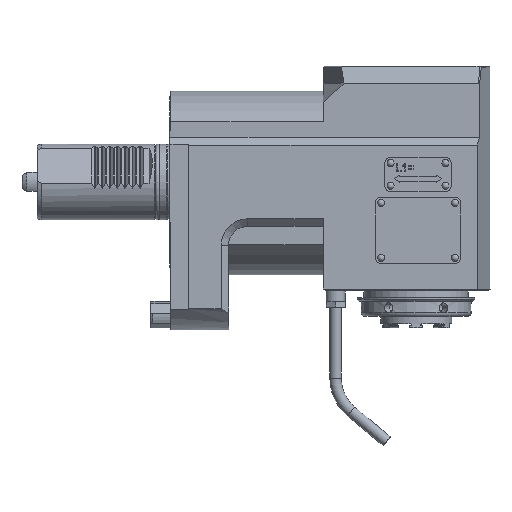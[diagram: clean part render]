
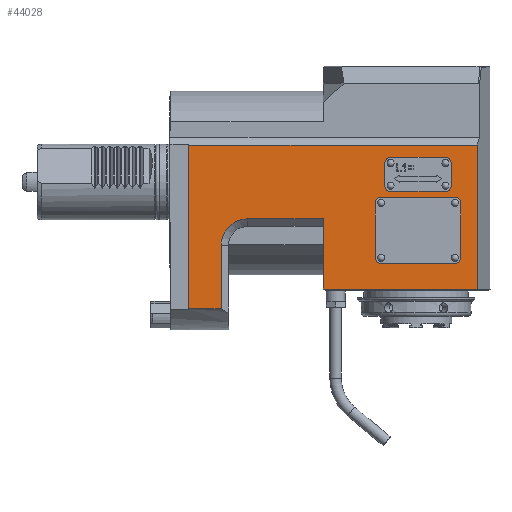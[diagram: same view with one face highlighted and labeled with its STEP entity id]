
A CAD part, front view. The second image highlights one B-rep face of the part: STEP entity #44028.
In plain terms, the highlighted planar face has unit normal (0, -1, 0).
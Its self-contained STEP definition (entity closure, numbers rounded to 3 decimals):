
#17822=VECTOR('',#28168,1.);
#17870=VECTOR('',#28242,1.);
#17993=VECTOR('',#28629,1.);
#18007=VECTOR('',#28733,1.);
#18012=VECTOR('',#28742,1.);
#18013=VECTOR('',#28743,1.);
#18014=VECTOR('',#28744,1.);
#18015=VECTOR('',#28747,1.);
#18016=VECTOR('',#28748,1.);
#18017=VECTOR('',#28751,1.);
#18018=VECTOR('',#28754,1.);
#18019=VECTOR('',#28757,1.);
#18020=VECTOR('',#28760,1.);
#18021=VECTOR('',#28763,1.);
#18022=VECTOR('',#28766,1.);
#18023=VECTOR('',#28769,1.);
#18667=LINE('',#35186,#17822);
#18715=LINE('',#35287,#17870);
#18838=LINE('',#35649,#17993);
#18852=LINE('',#35872,#18007);
#18857=LINE('',#35884,#18012);
#18858=LINE('',#35886,#18013);
#18859=LINE('',#35888,#18014);
#18860=LINE('',#35891,#18015);
#18861=LINE('',#35894,#18016);
#18862=LINE('',#35898,#18017);
#18863=LINE('',#35902,#18018);
#18864=LINE('',#35906,#18019);
#18865=LINE('',#35910,#18020);
#18866=LINE('',#35914,#18021);
#18867=LINE('',#35918,#18022);
#18868=LINE('',#35922,#18023);
#19792=PLANE('',#42899);
#20868=ORIENTED_EDGE('',*,*,#25103,.T.);
#20869=ORIENTED_EDGE('',*,*,#24841,.T.);
#20870=ORIENTED_EDGE('',*,*,#24892,.F.);
#20871=ORIENTED_EDGE('',*,*,#25059,.F.);
#20872=ORIENTED_EDGE('',*,*,#25109,.F.);
#20873=ORIENTED_EDGE('',*,*,#25110,.F.);
#20874=ORIENTED_EDGE('',*,*,#25111,.F.);
#20875=ORIENTED_EDGE('',*,*,#25112,.F.);
#20876=ORIENTED_EDGE('',*,*,#25113,.F.);
#20877=ORIENTED_EDGE('',*,*,#25114,.F.);
#20878=ORIENTED_EDGE('',*,*,#25115,.T.);
#20879=ORIENTED_EDGE('',*,*,#25116,.F.);
#20880=ORIENTED_EDGE('',*,*,#25117,.T.);
#20881=ORIENTED_EDGE('',*,*,#25118,.F.);
#20882=ORIENTED_EDGE('',*,*,#25119,.T.);
#20883=ORIENTED_EDGE('',*,*,#25120,.F.);
#20884=ORIENTED_EDGE('',*,*,#25121,.T.);
#20885=ORIENTED_EDGE('',*,*,#25122,.F.);
#20886=ORIENTED_EDGE('',*,*,#25123,.T.);
#20887=ORIENTED_EDGE('',*,*,#25124,.F.);
#20888=ORIENTED_EDGE('',*,*,#25125,.T.);
#20889=ORIENTED_EDGE('',*,*,#25126,.F.);
#20890=ORIENTED_EDGE('',*,*,#25127,.T.);
#20891=ORIENTED_EDGE('',*,*,#25128,.F.);
#20892=ORIENTED_EDGE('',*,*,#25129,.T.);
#23391=CIRCLE('',#42900,14.);
#23392=CIRCLE('',#42901,3.);
#23393=CIRCLE('',#42902,3.);
#23394=CIRCLE('',#42903,3.);
#23395=CIRCLE('',#42904,3.);
#23396=CIRCLE('',#42905,3.);
#23397=CIRCLE('',#42906,3.);
#23398=CIRCLE('',#42907,3.);
#23399=CIRCLE('',#42908,3.);
#23786=VERTEX_POINT('',#35178);
#23788=VERTEX_POINT('',#35184);
#23828=VERTEX_POINT('',#35285);
#23935=VERTEX_POINT('',#35647);
#23967=VERTEX_POINT('',#35871);
#23972=VERTEX_POINT('',#35883);
#23973=VERTEX_POINT('',#35885);
#23974=VERTEX_POINT('',#35887);
#23975=VERTEX_POINT('',#35889);
#23976=VERTEX_POINT('',#35892);
#23977=VERTEX_POINT('',#35893);
#23978=VERTEX_POINT('',#35895);
#23979=VERTEX_POINT('',#35897);
#23980=VERTEX_POINT('',#35899);
#23981=VERTEX_POINT('',#35901);
#23982=VERTEX_POINT('',#35903);
#23983=VERTEX_POINT('',#35905);
#23984=VERTEX_POINT('',#35908);
#23985=VERTEX_POINT('',#35909);
#23986=VERTEX_POINT('',#35911);
#23987=VERTEX_POINT('',#35913);
#23988=VERTEX_POINT('',#35915);
#23989=VERTEX_POINT('',#35917);
#23990=VERTEX_POINT('',#35919);
#23991=VERTEX_POINT('',#35921);
#24841=EDGE_CURVE('',#23786,#23788,#18667,.T.);
#24892=EDGE_CURVE('',#23828,#23788,#18715,.T.);
#25059=EDGE_CURVE('',#23935,#23828,#18838,.T.);
#25103=EDGE_CURVE('',#23967,#23786,#18852,.T.);
#25109=EDGE_CURVE('',#23972,#23935,#18857,.T.);
#25110=EDGE_CURVE('',#23973,#23972,#18858,.T.);
#25111=EDGE_CURVE('',#23974,#23973,#18859,.T.);
#25112=EDGE_CURVE('',#23975,#23974,#23391,.T.);
#25113=EDGE_CURVE('',#23967,#23975,#18860,.T.);
#25114=EDGE_CURVE('',#23976,#23977,#18861,.T.);
#25115=EDGE_CURVE('',#23976,#23978,#23392,.T.);
#25116=EDGE_CURVE('',#23979,#23978,#18862,.T.);
#25117=EDGE_CURVE('',#23979,#23980,#23393,.T.);
#25118=EDGE_CURVE('',#23981,#23980,#18863,.T.);
#25119=EDGE_CURVE('',#23981,#23982,#23394,.T.);
#25120=EDGE_CURVE('',#23983,#23982,#18864,.T.);
#25121=EDGE_CURVE('',#23983,#23977,#23395,.T.);
#25122=EDGE_CURVE('',#23984,#23985,#18865,.T.);
#25123=EDGE_CURVE('',#23984,#23986,#23396,.T.);
#25124=EDGE_CURVE('',#23987,#23986,#18866,.T.);
#25125=EDGE_CURVE('',#23987,#23988,#23397,.T.);
#25126=EDGE_CURVE('',#23989,#23988,#18867,.T.);
#25127=EDGE_CURVE('',#23989,#23990,#23398,.T.);
#25128=EDGE_CURVE('',#23991,#23990,#18868,.T.);
#25129=EDGE_CURVE('',#23991,#23985,#23399,.T.);
#26503=EDGE_LOOP('',(#20868,#20869,#20870,#20871,#20872,#20873,#20874,#20875,
#20876));
#26504=EDGE_LOOP('',(#20877,#20878,#20879,#20880,#20881,#20882,#20883,#20884));
#26505=EDGE_LOOP('',(#20885,#20886,#20887,#20888,#20889,#20890,#20891,#20892));
#27381=FACE_BOUND('',#26503,.T.);
#27382=FACE_BOUND('',#26504,.T.);
#27383=FACE_BOUND('',#26505,.T.);
#28168=DIRECTION('',(81.301,0.,0.));
#28242=DIRECTION('',(0.,0.,-76.));
#28629=DIRECTION('',(152.251,0.,0.));
#28733=DIRECTION('',(0.,0.,-37.));
#28740=DIRECTION('',(0.,-1.,0.));
#28741=DIRECTION('',(-1.,0.,0.));
#28742=DIRECTION('',(0.,0.,86.463));
#28743=DIRECTION('',(-17.,0.,0.));
#28744=DIRECTION('',(0.,0.,-33.463));
#28745=DIRECTION('',(0.,-1.,0.));
#28746=DIRECTION('',(0.,0.,14.));
#28747=DIRECTION('',(-39.95,0.,0.));
#28748=DIRECTION('',(0.,0.,29.));
#28749=DIRECTION('',(0.,1.,0.));
#28750=DIRECTION('',(0.,0.,-3.));
#28751=DIRECTION('',(39.,0.,0.));
#28752=DIRECTION('',(0.,1.,0.));
#28753=DIRECTION('',(0.,0.,-3.));
#28754=DIRECTION('',(0.,0.,-29.));
#28755=DIRECTION('',(0.,1.,0.));
#28756=DIRECTION('',(0.,0.,-3.));
#28757=DIRECTION('',(-39.,0.,0.));
#28758=DIRECTION('',(0.,1.,0.));
#28759=DIRECTION('',(0.,0.,-3.));
#28760=DIRECTION('',(-29.,0.,0.));
#28761=DIRECTION('',(0.,1.,0.));
#28762=DIRECTION('',(0.,0.,-3.));
#28763=DIRECTION('',(0.,0.,12.));
#28764=DIRECTION('',(0.,1.,0.));
#28765=DIRECTION('',(0.,0.,-3.));
#28766=DIRECTION('',(29.,0.,0.));
#28767=DIRECTION('',(0.,1.,0.));
#28768=DIRECTION('',(0.,0.,-3.));
#28769=DIRECTION('',(0.,0.,-12.));
#28770=DIRECTION('',(0.,1.,0.));
#28771=DIRECTION('',(0.,0.,-3.));
#35178=CARTESIAN_POINT('',(80.95,-40.,-56.5));
#35184=CARTESIAN_POINT('',(162.251,-40.,-56.5));
#35186=CARTESIAN_POINT('',(80.95,-40.,-56.5));
#35285=CARTESIAN_POINT('',(162.251,-40.,19.5));
#35287=CARTESIAN_POINT('',(162.251,-40.,19.5));
#35647=CARTESIAN_POINT('',(10.,-40.,19.5));
#35649=CARTESIAN_POINT('',(10.,-40.,19.5));
#35871=CARTESIAN_POINT('',(80.95,-40.,-19.5));
#35872=CARTESIAN_POINT('',(80.95,-40.,-19.5));
#35882=CARTESIAN_POINT('',(80.95,-40.,-56.5));
#35883=CARTESIAN_POINT('',(10.,-40.,-66.963));
#35884=CARTESIAN_POINT('',(10.,-40.,-66.963));
#35885=CARTESIAN_POINT('',(27.,-40.,-66.963));
#35886=CARTESIAN_POINT('',(27.,-40.,-66.963));
#35887=CARTESIAN_POINT('',(27.,-40.,-33.5));
#35888=CARTESIAN_POINT('',(27.,-40.,-33.5));
#35889=CARTESIAN_POINT('',(41.,-40.,-19.5));
#35890=CARTESIAN_POINT('',(41.,-40.,-33.5));
#35891=CARTESIAN_POINT('',(80.95,-40.,-19.5));
#35892=CARTESIAN_POINT('',(153.45,-40.,-40.));
#35893=CARTESIAN_POINT('',(153.45,-40.,-11.));
#35894=CARTESIAN_POINT('',(153.45,-40.,-40.));
#35895=CARTESIAN_POINT('',(150.45,-40.,-43.));
#35896=CARTESIAN_POINT('',(150.45,-40.,-40.));
#35897=CARTESIAN_POINT('',(111.45,-40.,-43.));
#35898=CARTESIAN_POINT('',(111.45,-40.,-43.));
#35899=CARTESIAN_POINT('',(108.45,-40.,-40.));
#35900=CARTESIAN_POINT('',(111.45,-40.,-40.));
#35901=CARTESIAN_POINT('',(108.45,-40.,-11.));
#35902=CARTESIAN_POINT('',(108.45,-40.,-11.));
#35903=CARTESIAN_POINT('',(111.45,-40.,-8.));
#35904=CARTESIAN_POINT('',(111.45,-40.,-11.));
#35905=CARTESIAN_POINT('',(150.45,-40.,-8.));
#35906=CARTESIAN_POINT('',(150.45,-40.,-8.));
#35907=CARTESIAN_POINT('',(150.45,-40.,-11.));
#35908=CARTESIAN_POINT('',(145.45,-40.,13.));
#35909=CARTESIAN_POINT('',(116.45,-40.,13.));
#35910=CARTESIAN_POINT('',(145.45,-40.,13.));
#35911=CARTESIAN_POINT('',(148.45,-40.,10.));
#35912=CARTESIAN_POINT('',(145.45,-40.,10.));
#35913=CARTESIAN_POINT('',(148.45,-40.,-2.));
#35914=CARTESIAN_POINT('',(148.45,-40.,-2.));
#35915=CARTESIAN_POINT('',(145.45,-40.,-5.));
#35916=CARTESIAN_POINT('',(145.45,-40.,-2.));
#35917=CARTESIAN_POINT('',(116.45,-40.,-5.));
#35918=CARTESIAN_POINT('',(116.45,-40.,-5.));
#35919=CARTESIAN_POINT('',(113.45,-40.,-2.));
#35920=CARTESIAN_POINT('',(116.45,-40.,-2.));
#35921=CARTESIAN_POINT('',(113.45,-40.,10.));
#35922=CARTESIAN_POINT('',(113.45,-40.,10.));
#35923=CARTESIAN_POINT('',(116.45,-40.,10.));
#42899=AXIS2_PLACEMENT_3D('',#35882,#28740,#28741);
#42900=AXIS2_PLACEMENT_3D('',#35890,#28745,#28746);
#42901=AXIS2_PLACEMENT_3D('',#35896,#28749,#28750);
#42902=AXIS2_PLACEMENT_3D('',#35900,#28752,#28753);
#42903=AXIS2_PLACEMENT_3D('',#35904,#28755,#28756);
#42904=AXIS2_PLACEMENT_3D('',#35907,#28758,#28759);
#42905=AXIS2_PLACEMENT_3D('',#35912,#28761,#28762);
#42906=AXIS2_PLACEMENT_3D('',#35916,#28764,#28765);
#42907=AXIS2_PLACEMENT_3D('',#35920,#28767,#28768);
#42908=AXIS2_PLACEMENT_3D('',#35923,#28770,#28771);
#44028=ADVANCED_FACE('',(#27381,#27382,#27383),#19792,.T.);
